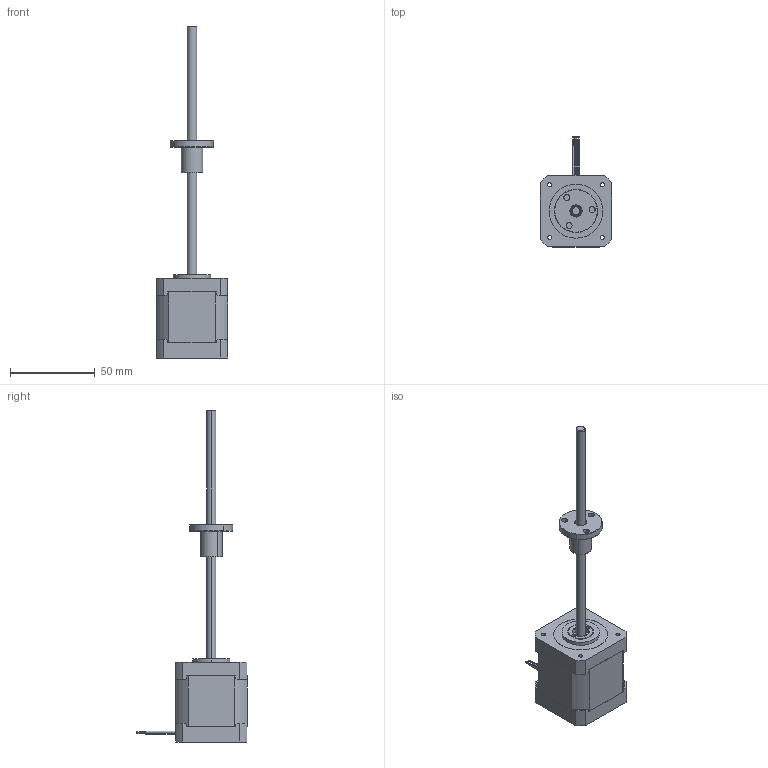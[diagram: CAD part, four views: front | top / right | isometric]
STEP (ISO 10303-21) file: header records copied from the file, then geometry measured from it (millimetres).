
FILE_DESCRIPTION (( 'STEP AP203' ), '1' );
FILE_NAME ('42双叠厚外驱.STEP', '2014-09-12T05:31:11', ( 'user' ), ( 'pxctfys' ), 'SwSTEP 2.0', 'SolidWorks 2012', '' );
FILE_SCHEMA (( 'CONFIG_CONTROL_DESIGN' ));
Length unit declared in the file: millimetre
Products named in the file (1): 42双叠厚外驱
Bounding box: 42.16 x 64.88 x 195.5 mm (x, y, z)
Surface area: 20246 mm2 (no closed solid volume)
Topology: 0 solids, 21 shells, 195 faces, 1297 edges, 1132 vertices
Faces by surface type: cylinder 90, plane 65, cone 24, torus 16
Entity records: 13060 total; most frequent: CARTESIAN_POINT 2673, DIRECTION 2455, ORIENTED_EDGE 1706, EDGE_CURVE 1297, VERTEX_POINT 1132, AXIS2_PLACEMENT_3D 978, CIRCLE 782, LINE 499
